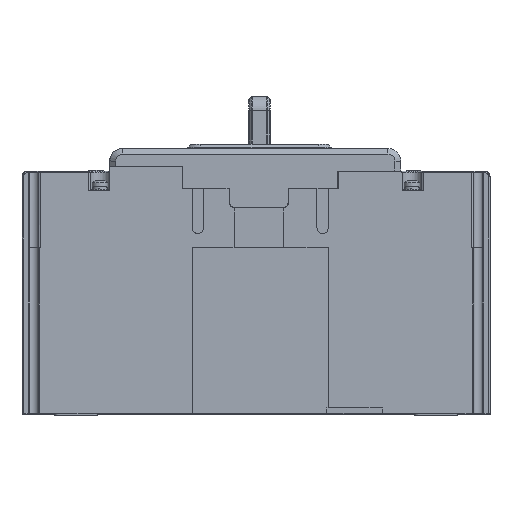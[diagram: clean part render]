
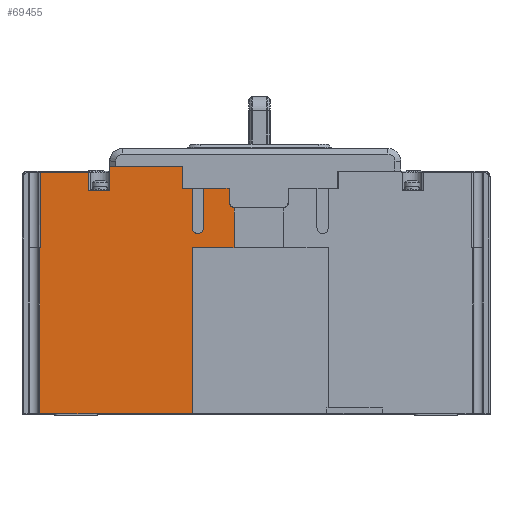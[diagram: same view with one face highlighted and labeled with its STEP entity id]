
A CAD part, top view. The second image highlights one B-rep face of the part: STEP entity #69455.
In plain terms, the highlighted planar face has unit normal (0, 0, 1).
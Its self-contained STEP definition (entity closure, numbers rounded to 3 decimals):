
#17760=DIRECTION('',(1.,0.,0.));
#17761=VECTOR('',#17760,7.5);
#17762=CARTESIAN_POINT('',(-59.,28.7,53.5));
#17763=LINE('',#17762,#17761);
#17764=DIRECTION('',(0.,1.,0.));
#17765=VECTOR('',#17764,8.5);
#17766=CARTESIAN_POINT('',(-51.5,28.7,53.5));
#17767=LINE('',#17766,#17765);
#17768=DIRECTION('',(1.,0.,0.));
#17769=VECTOR('',#17768,25.5);
#17770=CARTESIAN_POINT('',(-51.5,37.2,53.5));
#17771=LINE('',#17770,#17769);
#17772=DIRECTION('',(0.,-1.,0.));
#17773=VECTOR('',#17772,7.5);
#17774=CARTESIAN_POINT('',(-26.,37.2,53.5));
#17775=LINE('',#17774,#17773);
#17776=DIRECTION('',(1.,0.,0.));
#17777=VECTOR('',#17776,3.5);
#17778=CARTESIAN_POINT('',(-26.,29.7,53.5));
#17779=LINE('',#17778,#17777);
#17780=DIRECTION('',(0.,-1.,0.));
#17781=VECTOR('',#17780,14.);
#17782=CARTESIAN_POINT('',(-22.5,29.7,53.5));
#17783=LINE('',#17782,#17781);
#17784=CARTESIAN_POINT('',(-20.5,15.7,53.5));
#17785=DIRECTION('',(0.,0.,1.));
#17786=DIRECTION('',(-1.,0.,0.));
#17787=AXIS2_PLACEMENT_3D('',#17784,#17785,#17786);
#17789=CARTESIAN_POINT('',(-20.5,15.7,53.5));
#17790=DIRECTION('',(0.,0.,1.));
#17791=DIRECTION('',(0.,-1.,0.));
#17792=AXIS2_PLACEMENT_3D('',#17789,#17790,#17791);
#17794=DIRECTION('',(0.,1.,0.));
#17795=VECTOR('',#17794,14.);
#17796=CARTESIAN_POINT('',(-18.5,15.7,53.5));
#17797=LINE('',#17796,#17795);
#17798=DIRECTION('',(1.,0.,0.));
#17799=VECTOR('',#17798,9.);
#17800=CARTESIAN_POINT('',(-18.5,29.7,53.5));
#17801=LINE('',#17800,#17799);
#17802=DIRECTION('',(0.,-1.,0.));
#17803=VECTOR('',#17802,5.);
#17804=CARTESIAN_POINT('',(-9.5,29.7,53.5));
#17805=LINE('',#17804,#17803);
#17806=CARTESIAN_POINT('',(-7.5,24.7,53.5));
#17807=DIRECTION('',(0.,0.,1.));
#17808=DIRECTION('',(-1.,0.,0.));
#17809=AXIS2_PLACEMENT_3D('',#17806,#17807,#17808);
#17811=DIRECTION('',(0.,-1.,0.));
#17812=VECTOR('',#17811,14.016);
#17813=CARTESIAN_POINT('',(-7.75,22.716,53.5));
#17814=LINE('',#17813,#17812);
#17815=DIRECTION('',(-1.,0.,0.));
#17816=VECTOR('',#17815,14.75);
#17817=CARTESIAN_POINT('',(-7.75,8.7,53.5));
#17818=LINE('',#17817,#17816);
#17819=DIRECTION('',(0.,-1.,0.));
#17820=VECTOR('',#17819,58.5);
#17821=CARTESIAN_POINT('',(-22.5,8.7,53.5));
#17822=LINE('',#17821,#17820);
#17823=CARTESIAN_POINT('',(-76.151,8.7,53.5));
#17824=CARTESIAN_POINT('',(-76.153,8.7,53.5));
#17825=CARTESIAN_POINT('',(-76.158,8.7,53.5));
#17826=CARTESIAN_POINT('',(-76.166,8.7,53.5));
#17827=CARTESIAN_POINT('',(-76.172,8.7,53.5));
#17828=CARTESIAN_POINT('',(-76.174,8.7,53.5));
#17830=DIRECTION('',(0.,-1.,0.));
#17831=VECTOR('',#17830,26.5);
#17832=CARTESIAN_POINT('',(-76.151,35.2,53.5));
#17833=LINE('',#17832,#17831);
#17854=DIRECTION('',(0.,-1.,0.));
#17855=VECTOR('',#17854,58.5);
#17856=CARTESIAN_POINT('',(-76.174,8.7,53.5));
#17857=LINE('',#17856,#17855);
#17898=DIRECTION('',(1.,0.,0.));
#17899=VECTOR('',#17898,53.675);
#17900=CARTESIAN_POINT('',(-76.175,-49.8,53.5));
#17901=LINE('',#17900,#17899);
#28639=DIRECTION('',(-1.,0.,0.));
#28640=VECTOR('',#28639,17.151);
#28641=CARTESIAN_POINT('',(-59.,35.2,53.5));
#28642=LINE('',#28641,#28640);
#28960=DIRECTION('',(0.,1.,0.));
#28961=VECTOR('',#28960,6.5);
#28962=CARTESIAN_POINT('',(-59.,28.7,53.5));
#28963=LINE('',#28962,#28961);
#47103=CARTESIAN_POINT('',(-9.5,24.7,53.5));
#47104=VERTEX_POINT('',#47103);
#47105=CARTESIAN_POINT('',(-9.5,29.7,53.5));
#47106=VERTEX_POINT('',#47105);
#47646=CARTESIAN_POINT('',(-76.175,-49.8,53.5));
#47647=VERTEX_POINT('',#47646);
#47648=CARTESIAN_POINT('',(-22.5,-49.8,53.5));
#47649=VERTEX_POINT('',#47648);
#48574=CARTESIAN_POINT('',(-26.,29.7,53.5));
#48575=VERTEX_POINT('',#48574);
#48576=CARTESIAN_POINT('',(-26.,37.2,53.5));
#48577=VERTEX_POINT('',#48576);
#48582=CARTESIAN_POINT('',(-22.5,29.7,53.5));
#48583=VERTEX_POINT('',#48582);
#48588=CARTESIAN_POINT('',(-22.5,15.7,53.5));
#48589=VERTEX_POINT('',#48588);
#48596=CARTESIAN_POINT('',(-18.5,29.7,53.5));
#48597=VERTEX_POINT('',#48596);
#48598=CARTESIAN_POINT('',(-18.5,15.7,53.5));
#48599=VERTEX_POINT('',#48598);
#48600=VERTEX_POINT('',#17823);
#48601=VERTEX_POINT('',#17828);
#48602=CARTESIAN_POINT('',(-76.151,35.2,53.5));
#48603=VERTEX_POINT('',#48602);
#48604=CARTESIAN_POINT('',(-59.,35.2,53.5));
#48605=VERTEX_POINT('',#48604);
#48606=CARTESIAN_POINT('',(-59.,28.7,53.5));
#48607=VERTEX_POINT('',#48606);
#48608=CARTESIAN_POINT('',(-51.5,28.7,53.5));
#48609=VERTEX_POINT('',#48608);
#48610=CARTESIAN_POINT('',(-51.5,37.2,53.5));
#48611=VERTEX_POINT('',#48610);
#48612=CARTESIAN_POINT('',(-20.5,13.7,53.5));
#48613=VERTEX_POINT('',#48612);
#48614=CARTESIAN_POINT('',(-7.75,22.716,53.5));
#48615=VERTEX_POINT('',#48614);
#48616=CARTESIAN_POINT('',(-7.75,8.7,53.5));
#48617=VERTEX_POINT('',#48616);
#48618=CARTESIAN_POINT('',(-22.5,8.7,53.5));
#48619=VERTEX_POINT('',#48618);
#69409=CARTESIAN_POINT('',(-41.962,-6.3,53.5));
#69410=DIRECTION('',(0.,0.,1.));
#69411=DIRECTION('',(1.,0.,0.));
#69412=AXIS2_PLACEMENT_3D('',#69409,#69410,#69411);
#69413=PLANE('',#69412);
#69415=ORIENTED_EDGE('',*,*,#69414,.F.);
#69417=ORIENTED_EDGE('',*,*,#69416,.F.);
#69419=ORIENTED_EDGE('',*,*,#69418,.F.);
#69421=ORIENTED_EDGE('',*,*,#69420,.F.);
#69422=ORIENTED_EDGE('',*,*,#69400,.T.);
#69423=ORIENTED_EDGE('',*,*,#69371,.T.);
#69425=ORIENTED_EDGE('',*,*,#69424,.T.);
#69426=ORIENTED_EDGE('',*,*,#67186,.T.);
#69428=ORIENTED_EDGE('',*,*,#69427,.T.);
#69430=ORIENTED_EDGE('',*,*,#69429,.T.);
#69432=ORIENTED_EDGE('',*,*,#69431,.T.);
#69434=ORIENTED_EDGE('',*,*,#69433,.T.);
#69436=ORIENTED_EDGE('',*,*,#69435,.T.);
#69438=ORIENTED_EDGE('',*,*,#69437,.T.);
#69440=ORIENTED_EDGE('',*,*,#69439,.T.);
#69442=ORIENTED_EDGE('',*,*,#69441,.T.);
#69444=ORIENTED_EDGE('',*,*,#69443,.T.);
#69446=ORIENTED_EDGE('',*,*,#69445,.T.);
#69448=ORIENTED_EDGE('',*,*,#69447,.T.);
#69450=ORIENTED_EDGE('',*,*,#69449,.F.);
#69452=ORIENTED_EDGE('',*,*,#69451,.F.);
#69453=EDGE_LOOP('',(#69415,#69417,#69419,#69421,#69422,#69423,#69425,#69426,
#69428,#69430,#69432,#69434,#69436,#69438,#69440,#69442,#69444,#69446,#69448,
#69450,#69452));
#69454=FACE_OUTER_BOUND('',#69453,.F.);
#69455=ADVANCED_FACE('',(#69454),#69413,.T.);
#17788=CIRCLE('',#17787,2.);
#17793=CIRCLE('',#17792,2.);
#17810=CIRCLE('',#17809,2.);
#17829=B_SPLINE_CURVE_WITH_KNOTS('',3,(#17823,#17824,#17825,#17826,#17827,
#17828),.UNSPECIFIED.,.F.,.F.,(4,1,1,4),(0.,0.333,
0.667,1.),.UNSPECIFIED.);
#67186=EDGE_CURVE('',#48577,#48575,#17775,.T.);
#69371=EDGE_CURVE('',#48609,#48611,#17767,.T.);
#69400=EDGE_CURVE('',#48607,#48609,#17763,.T.);
#69414=EDGE_CURVE('',#48600,#48601,#17829,.T.);
#69416=EDGE_CURVE('',#48603,#48600,#17833,.T.);
#69418=EDGE_CURVE('',#48605,#48603,#28642,.T.);
#69420=EDGE_CURVE('',#48607,#48605,#28963,.T.);
#69424=EDGE_CURVE('',#48611,#48577,#17771,.T.);
#69427=EDGE_CURVE('',#48575,#48583,#17779,.T.);
#69429=EDGE_CURVE('',#48583,#48589,#17783,.T.);
#69431=EDGE_CURVE('',#48589,#48613,#17788,.T.);
#69433=EDGE_CURVE('',#48613,#48599,#17793,.T.);
#69435=EDGE_CURVE('',#48599,#48597,#17797,.T.);
#69437=EDGE_CURVE('',#48597,#47106,#17801,.T.);
#69439=EDGE_CURVE('',#47106,#47104,#17805,.T.);
#69441=EDGE_CURVE('',#47104,#48615,#17810,.T.);
#69443=EDGE_CURVE('',#48615,#48617,#17814,.T.);
#69445=EDGE_CURVE('',#48617,#48619,#17818,.T.);
#69447=EDGE_CURVE('',#48619,#47649,#17822,.T.);
#69449=EDGE_CURVE('',#47647,#47649,#17901,.T.);
#69451=EDGE_CURVE('',#48601,#47647,#17857,.T.);
